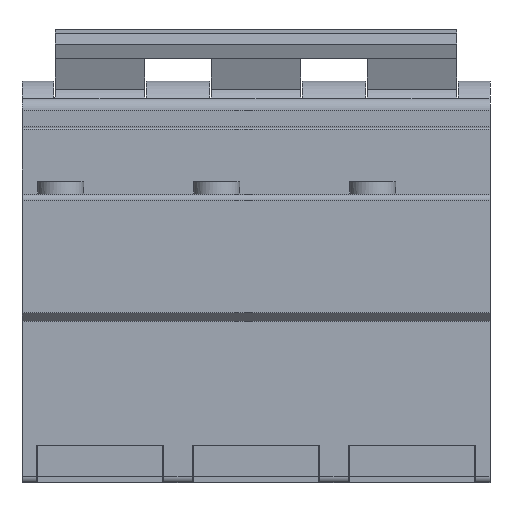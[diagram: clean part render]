
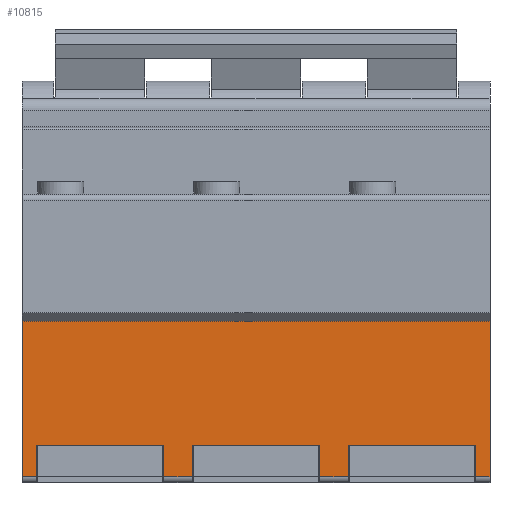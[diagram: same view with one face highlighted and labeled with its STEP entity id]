
A CAD part, front view. The second image highlights one B-rep face of the part: STEP entity #10815.
In plain terms, the highlighted planar face has unit normal (0, -1, 0).
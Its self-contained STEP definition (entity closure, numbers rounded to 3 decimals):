
#1046=FACE_OUTER_BOUND('',#1777,.T.);
#1777=EDGE_LOOP('',(#8632,#8633,#8634,#8635,#8636,#8637,#8638,#8639,#8640,
#8641,#8642,#8643,#8644,#8645,#8646,#8647));
#2473=LINE('',#16740,#3518);
#2482=LINE('',#16778,#3527);
#2487=LINE('',#16791,#3532);
#2493=LINE('',#16803,#3538);
#2559=LINE('',#17389,#3604);
#2564=LINE('',#17402,#3609);
#2570=LINE('',#17414,#3615);
#2636=LINE('',#18000,#3681);
#2641=LINE('',#18013,#3686);
#2646=LINE('',#18024,#3691);
#2647=LINE('',#18025,#3692);
#2648=LINE('',#18026,#3693);
#2649=LINE('',#18027,#3694);
#2650=LINE('',#18029,#3695);
#2651=LINE('',#18031,#3696);
#2652=LINE('',#18032,#3697);
#3518=VECTOR('',#12643,10.);
#3527=VECTOR('',#12676,10.);
#3532=VECTOR('',#12685,10.);
#3538=VECTOR('',#12695,10.);
#3604=VECTOR('',#13071,10.);
#3609=VECTOR('',#13080,10.);
#3615=VECTOR('',#13090,10.);
#3681=VECTOR('',#13466,10.);
#3686=VECTOR('',#13475,10.);
#3691=VECTOR('',#13484,10.);
#3692=VECTOR('',#13485,10.);
#3693=VECTOR('',#13486,10.);
#3694=VECTOR('',#13487,10.);
#3695=VECTOR('',#13488,10.);
#3696=VECTOR('',#13489,10.);
#3697=VECTOR('',#13490,10.);
#4764=VERTEX_POINT('',#16737);
#4765=VERTEX_POINT('',#16739);
#4781=VERTEX_POINT('',#16776);
#4782=VERTEX_POINT('',#16777);
#4787=VERTEX_POINT('',#16789);
#4788=VERTEX_POINT('',#16790);
#4904=VERTEX_POINT('',#17387);
#4905=VERTEX_POINT('',#17388);
#4910=VERTEX_POINT('',#17400);
#4911=VERTEX_POINT('',#17401);
#5027=VERTEX_POINT('',#17998);
#5028=VERTEX_POINT('',#17999);
#5033=VERTEX_POINT('',#18011);
#5034=VERTEX_POINT('',#18012);
#5039=VERTEX_POINT('',#18028);
#5040=VERTEX_POINT('',#18030);
#5956=EDGE_CURVE('',#4764,#4765,#2473,.T.);
#5973=EDGE_CURVE('',#4781,#4782,#2482,.T.);
#5979=EDGE_CURVE('',#4787,#4788,#2487,.T.);
#5986=EDGE_CURVE('',#4782,#4765,#2493,.T.);
#6149=EDGE_CURVE('',#4904,#4905,#2559,.T.);
#6155=EDGE_CURVE('',#4910,#4911,#2564,.T.);
#6162=EDGE_CURVE('',#4905,#4787,#2570,.T.);
#6325=EDGE_CURVE('',#5027,#5028,#2636,.T.);
#6331=EDGE_CURVE('',#5033,#5034,#2641,.T.);
#6337=EDGE_CURVE('',#5034,#5027,#2646,.T.);
#6338=EDGE_CURVE('',#5028,#4910,#2647,.T.);
#6339=EDGE_CURVE('',#4911,#4904,#2648,.T.);
#6340=EDGE_CURVE('',#4788,#4781,#2649,.T.);
#6341=EDGE_CURVE('',#5039,#4764,#2650,.T.);
#6342=EDGE_CURVE('',#5039,#5040,#2651,.T.);
#6343=EDGE_CURVE('',#5040,#5033,#2652,.T.);
#8632=ORIENTED_EDGE('',*,*,#6331,.T.);
#8633=ORIENTED_EDGE('',*,*,#6337,.T.);
#8634=ORIENTED_EDGE('',*,*,#6325,.T.);
#8635=ORIENTED_EDGE('',*,*,#6338,.T.);
#8636=ORIENTED_EDGE('',*,*,#6155,.T.);
#8637=ORIENTED_EDGE('',*,*,#6339,.T.);
#8638=ORIENTED_EDGE('',*,*,#6149,.T.);
#8639=ORIENTED_EDGE('',*,*,#6162,.T.);
#8640=ORIENTED_EDGE('',*,*,#5979,.T.);
#8641=ORIENTED_EDGE('',*,*,#6340,.T.);
#8642=ORIENTED_EDGE('',*,*,#5973,.T.);
#8643=ORIENTED_EDGE('',*,*,#5986,.T.);
#8644=ORIENTED_EDGE('',*,*,#5956,.F.);
#8645=ORIENTED_EDGE('',*,*,#6341,.F.);
#8646=ORIENTED_EDGE('',*,*,#6342,.T.);
#8647=ORIENTED_EDGE('',*,*,#6343,.T.);
#10238=PLANE('',#11600);
#10815=ADVANCED_FACE('',(#1046),#10238,.T.);
#11600=AXIS2_PLACEMENT_3D('',#18023,#13482,#13483);
#12643=DIRECTION('',(0.,0.,-1.));
#12676=DIRECTION('',(0.,0.,-1.));
#12685=DIRECTION('',(0.,0.,1.));
#12695=DIRECTION('',(1.,0.,0.));
#13071=DIRECTION('',(0.,0.,-1.));
#13080=DIRECTION('',(0.,0.,1.));
#13090=DIRECTION('',(1.,0.,0.));
#13466=DIRECTION('',(0.,0.,-1.));
#13475=DIRECTION('',(0.,0.,1.));
#13482=DIRECTION('center_axis',(0.,-1.,0.));
#13483=DIRECTION('ref_axis',(0.,0.,-1.));
#13484=DIRECTION('',(1.,0.,0.));
#13485=DIRECTION('',(1.,0.,0.));
#13486=DIRECTION('',(1.,0.,0.));
#13487=DIRECTION('',(1.,0.,0.));
#13488=DIRECTION('',(1.,0.,0.));
#13489=DIRECTION('',(0.,0.,-1.));
#13490=DIRECTION('',(1.,0.,0.));
#16737=CARTESIAN_POINT('',(81.,-24.356,-37.778));
#16739=CARTESIAN_POINT('',(81.,-24.356,-64.693));
#16740=CARTESIAN_POINT('',(81.,-24.356,-37.778));
#16776=CARTESIAN_POINT('',(78.5,-24.356,-59.196));
#16777=CARTESIAN_POINT('',(78.5,-24.356,-64.693));
#16778=CARTESIAN_POINT('',(78.5,-24.356,-50.008));
#16789=CARTESIAN_POINT('',(56.5,-24.356,-64.693));
#16790=CARTESIAN_POINT('',(56.5,-24.356,-59.196));
#16791=CARTESIAN_POINT('',(56.5,-24.356,-50.008));
#16803=CARTESIAN_POINT('',(54.,-24.356,-64.693));
#17387=CARTESIAN_POINT('',(51.5,-24.356,-59.196));
#17388=CARTESIAN_POINT('',(51.5,-24.356,-64.693));
#17389=CARTESIAN_POINT('',(51.5,-24.356,-50.008));
#17400=CARTESIAN_POINT('',(29.5,-24.356,-64.693));
#17401=CARTESIAN_POINT('',(29.5,-24.356,-59.196));
#17402=CARTESIAN_POINT('',(29.5,-24.356,-50.008));
#17414=CARTESIAN_POINT('',(27.,-24.356,-64.693));
#17998=CARTESIAN_POINT('',(24.5,-24.356,-59.196));
#17999=CARTESIAN_POINT('',(24.5,-24.356,-64.693));
#18000=CARTESIAN_POINT('',(24.5,-24.356,-50.008));
#18011=CARTESIAN_POINT('',(2.5,-24.356,-64.693));
#18012=CARTESIAN_POINT('',(2.5,-24.356,-59.196));
#18013=CARTESIAN_POINT('',(2.5,-24.356,-50.008));
#18023=CARTESIAN_POINT('Origin',(0.,-24.356,-37.778));
#18024=CARTESIAN_POINT('',(6.75,-24.356,-59.196));
#18025=CARTESIAN_POINT('',(0.,-24.356,-64.693));
#18026=CARTESIAN_POINT('',(33.75,-24.356,-59.196));
#18027=CARTESIAN_POINT('',(60.75,-24.356,-59.196));
#18028=CARTESIAN_POINT('',(0.,-24.356,-37.778));
#18029=CARTESIAN_POINT('',(0.,-24.356,-37.778));
#18030=CARTESIAN_POINT('',(0.,-24.356,-64.693));
#18031=CARTESIAN_POINT('',(0.,-24.356,-37.778));
#18032=CARTESIAN_POINT('',(0.,-24.356,-64.693));
